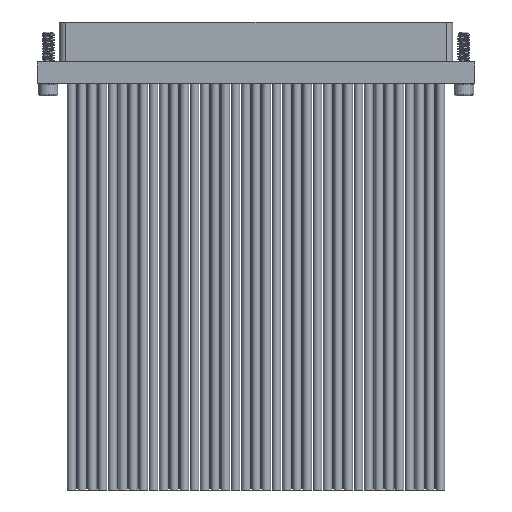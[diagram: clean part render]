
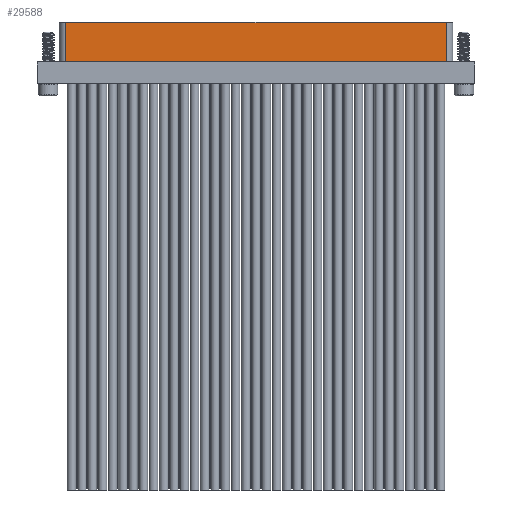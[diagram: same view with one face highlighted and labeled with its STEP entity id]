
A CAD part, front view. The second image highlights one B-rep face of the part: STEP entity #29588.
In plain terms, the highlighted planar face has unit normal (0, -1, 0).
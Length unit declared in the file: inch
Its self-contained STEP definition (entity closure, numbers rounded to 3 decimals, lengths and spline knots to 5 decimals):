
#2728 = DIRECTION ( 'NONE',  ( -1., 0., 0. ) ) ;
#3117 = CARTESIAN_POINT ( 'NONE',  ( -0.9285, -0.0525, -0.195 ) ) ;
#4705 = CARTESIAN_POINT ( 'NONE',  ( 0.9285, -0.0525, -0.195 ) ) ;
#8170 = CARTESIAN_POINT ( 'NONE',  ( 0.9285, -0.0525, -0.004 ) ) ;
#8252 = CARTESIAN_POINT ( 'NONE',  ( 0.9285, -0.0525, -0.195 ) ) ;
#9022 = EDGE_CURVE ( 'NONE', #40399, #16412, #30309, .T. ) ;
#9119 = EDGE_CURVE ( 'NONE', #34784, #42811, #21296, .T. ) ;
#16412 = VERTEX_POINT ( 'NONE', #27880 ) ;
#18558 = VECTOR ( 'NONE', #19773, 39.37008 ) ;
#19378 = FACE_OUTER_BOUND ( 'NONE', #24144, .T. ) ;
#19410 = LINE ( 'NONE', #43798, #32670 ) ;
#19773 = DIRECTION ( 'NONE',  ( 0., 0., 1. ) ) ;
#19812 = DIRECTION ( 'NONE',  ( 0., -1., 0. ) ) ;
#20273 = CARTESIAN_POINT ( 'NONE',  ( 0.9285, -0.0525, -0.195 ) ) ;
#21296 = LINE ( 'NONE', #37882, #44201 ) ;
#21786 = DIRECTION ( 'NONE',  ( 1., 0., 0. ) ) ;
#21787 = EDGE_CURVE ( 'NONE', #42811, #16412, #19410, .T. ) ;
#21957 = VECTOR ( 'NONE', #21786, 39.37008 ) ;
#22706 = DIRECTION ( 'NONE',  ( 0., 0., -1. ) ) ;
#24144 = EDGE_LOOP ( 'NONE', ( #42695, #38387, #38803, #40304 ) ) ;
#24524 = AXIS2_PLACEMENT_3D ( 'NONE', #20273, #19812, #22706 ) ;
#26993 = PLANE ( 'NONE',  #24524 ) ;
#27880 = CARTESIAN_POINT ( 'NONE',  ( -0.9285, -0.0525, -0.004 ) ) ;
#29588 = ADVANCED_FACE ( 'NONE', ( #19378 ), #26993, .T. ) ;
#30309 = LINE ( 'NONE', #3117, #18558 ) ;
#32353 = LINE ( 'NONE', #4705, #21957 ) ;
#32670 = VECTOR ( 'NONE', #2728, 39.37008 ) ;
#34784 = VERTEX_POINT ( 'NONE', #8252 ) ;
#36257 = CARTESIAN_POINT ( 'NONE',  ( -0.9285, -0.0525, -0.195 ) ) ;
#36953 = EDGE_CURVE ( 'NONE', #40399, #34784, #32353, .T. ) ;
#37882 = CARTESIAN_POINT ( 'NONE',  ( 0.9285, -0.0525, -0.195 ) ) ;
#38387 = ORIENTED_EDGE ( 'NONE', *, *, #21787, .T. ) ;
#38803 = ORIENTED_EDGE ( 'NONE', *, *, #9022, .F. ) ;
#40304 = ORIENTED_EDGE ( 'NONE', *, *, #36953, .T. ) ;
#40399 = VERTEX_POINT ( 'NONE', #36257 ) ;
#41718 = DIRECTION ( 'NONE',  ( 0., 0., 1. ) ) ;
#42695 = ORIENTED_EDGE ( 'NONE', *, *, #9119, .T. ) ;
#42811 = VERTEX_POINT ( 'NONE', #8170 ) ;
#43798 = CARTESIAN_POINT ( 'NONE',  ( -0.9285, -0.0525, -0.004 ) ) ;
#44201 = VECTOR ( 'NONE', #41718, 39.37008 ) ;
